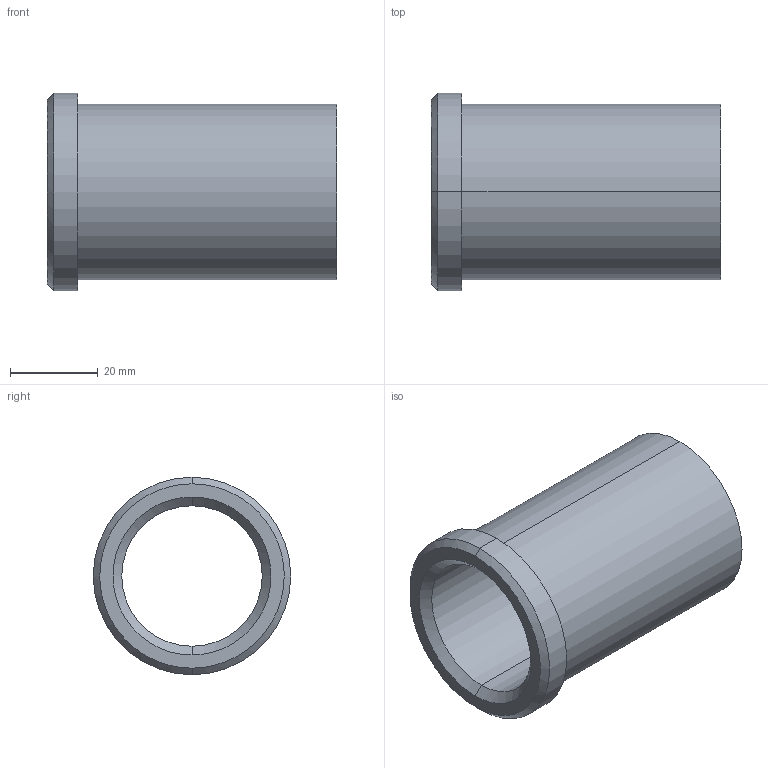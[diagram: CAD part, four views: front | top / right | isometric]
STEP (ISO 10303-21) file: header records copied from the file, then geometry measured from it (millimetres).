
FILE_DESCRIPTION(('CATIA V5 STEP Exchange'),'2;1');
FILE_NAME('C:\Users\Utente\Desktop\IO LAVORO\3D X SITO CF\X SITO\PLASTICA\353\353-32X66.stp','2021-05-12T18:55:17+00:00',('none'),('none'),'CATIA Version 5 Release 20 GA (IN-10)','CATIA V5 STEP AP203','none');
FILE_SCHEMA(('CONFIG_CONTROL_DESIGN'));
Length unit declared in the file: millimetre
Products named in the file (1): 353-32X66
Bounding box: 66 x 45 x 45 mm (x, y, z)
Volume: 31740.6 mm3; surface area: 16286.9 mm2
Topology: 1 solids, 1 shells, 15 faces, 48 edges, 36 vertices
Faces by surface type: cylinder 6, cone 4, plane 3, torus 2
Entity records: 680 total; most frequent: CARTESIAN_POINT 212, ORIENTED_EDGE 96, DIRECTION 70, EDGE_CURVE 48, AXIS2_PLACEMENT_3D 46, VERTEX_POINT 36, CIRCLE 30, EDGE_LOOP 18
